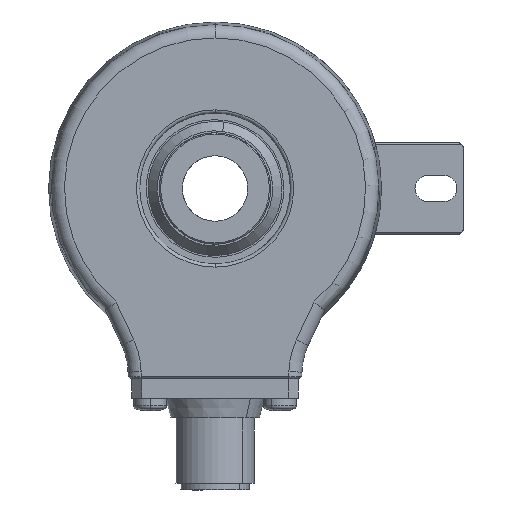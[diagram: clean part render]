
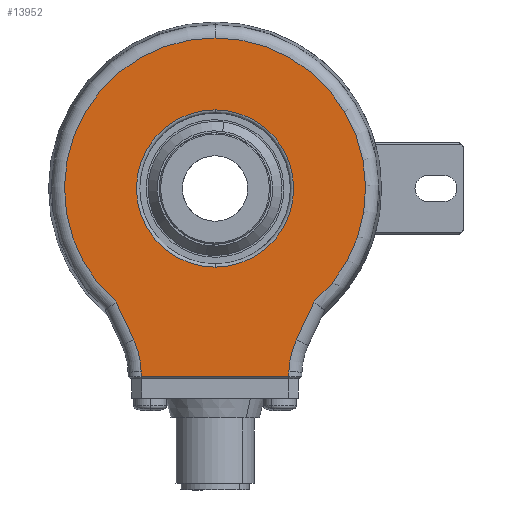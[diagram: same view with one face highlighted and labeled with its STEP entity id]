
A CAD part, left-side view. The second image highlights one B-rep face of the part: STEP entity #13952.
In plain terms, the highlighted planar face has unit normal (-1, 0, 0).
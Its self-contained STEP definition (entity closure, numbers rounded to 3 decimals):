
#16 = DIRECTION ( 'NONE',  ( 1., 0., 0. ) ) ;
#17 = PLANE ( 'NONE',  #24 ) ;
#24 = AXIS2_PLACEMENT_3D ( 'NONE', #25, #16, #26 ) ;
#25 = CARTESIAN_POINT ( 'NONE',  ( -21., 0., 0. ) ) ;
#26 = DIRECTION ( 'NONE',  ( 0., 0., 1. ) ) ;
#879 = VERTEX_POINT ( 'NONE', #3529 ) ;
#980 = VERTEX_POINT ( 'NONE', #4125 ) ;
#987 = EDGE_CURVE ( 'NONE', #879, #1228, #4362, .T. ) ;
#1031 = EDGE_CURVE ( 'NONE', #980, #8403, #4081, .T. ) ;
#1177 = EDGE_CURVE ( 'NONE', #1228, #980, #5493, .T. ) ;
#1225 = VERTEX_POINT ( 'NONE', #5531 ) ;
#1227 = EDGE_CURVE ( 'NONE', #8303, #1225, #5529, .T. ) ;
#1228 = VERTEX_POINT ( 'NONE', #5525 ) ;
#3529 = CARTESIAN_POINT ( 'NONE',  ( -21., -11.268, -27.974 ) ) ;
#4046 = EDGE_CURVE ( 'NONE', #4115, #4112, #6051, .T. ) ;
#4075 = DIRECTION ( 'NONE',  ( 0., 0., 1. ) ) ;
#4077 = DIRECTION ( 'NONE',  ( -1., 0., 0. ) ) ;
#4079 = CARTESIAN_POINT ( 'NONE',  ( -21., 0., 0. ) ) ;
#4080 = AXIS2_PLACEMENT_3D ( 'NONE', #4079, #4077, #4075 ) ;
#4081 = CIRCLE ( 'NONE', #4080, 22.972 ) ;
#4105 = VERTEX_POINT ( 'NONE', #6214 ) ;
#4112 = VERTEX_POINT ( 'NONE', #6110 ) ;
#4115 = VERTEX_POINT ( 'NONE', #6398 ) ;
#4125 = CARTESIAN_POINT ( 'NONE',  ( -21., -15.091, -17.32 ) ) ;
#4355 = DIRECTION ( 'NONE',  ( 0., 0., 1. ) ) ;
#4357 = DIRECTION ( 'NONE',  ( 1., 0., 0. ) ) ;
#4359 = CARTESIAN_POINT ( 'NONE',  ( -21., -23.266, -28.183 ) ) ;
#4360 = AXIS2_PLACEMENT_3D ( 'NONE', #4359, #4357, #4355 ) ;
#4362 = CIRCLE ( 'NONE', #4360, 12. ) ;
#4468 = EDGE_CURVE ( 'NONE', #1225, #4105, #6869, .T. ) ;
#5490 = DIRECTION ( 'NONE',  ( 0., -0.423, 0.906 ) ) ;
#5491 = VECTOR ( 'NONE', #5490, 1000. ) ;
#5492 = CARTESIAN_POINT ( 'NONE',  ( -21., -14.953, -17.615 ) ) ;
#5493 = LINE ( 'NONE', #5492, #5491 ) ;
#5525 = CARTESIAN_POINT ( 'NONE',  ( -21., -12.39, -23.112 ) ) ;
#5526 = DIRECTION ( 'NONE',  ( 0., -0.423, -0.906 ) ) ;
#5527 = VECTOR ( 'NONE', #5526, 1000. ) ;
#5528 = CARTESIAN_POINT ( 'NONE',  ( -21., 12.39, -23.112 ) ) ;
#5529 = LINE ( 'NONE', #5528, #5527 ) ;
#5531 = CARTESIAN_POINT ( 'NONE',  ( -21., 12.39, -23.112 ) ) ;
#6048 = DIRECTION ( 'NONE',  ( 0., -1., 0. ) ) ;
#6049 = VECTOR ( 'NONE', #6048, 1000. ) ;
#6050 = CARTESIAN_POINT ( 'NONE',  ( -21., -11.25, -28.695 ) ) ;
#6051 = LINE ( 'NONE', #6050, #6049 ) ;
#6110 = CARTESIAN_POINT ( 'NONE',  ( -21., -11.255, -28.695 ) ) ;
#6214 = CARTESIAN_POINT ( 'NONE',  ( -21., 11.268, -27.974 ) ) ;
#6398 = CARTESIAN_POINT ( 'NONE',  ( -21., 11.255, -28.695 ) ) ;
#6865 = DIRECTION ( 'NONE',  ( 0., 0., 1. ) ) ;
#6866 = DIRECTION ( 'NONE',  ( 1., 0., 0. ) ) ;
#6867 = CARTESIAN_POINT ( 'NONE',  ( -21., 23.266, -28.183 ) ) ;
#6868 = AXIS2_PLACEMENT_3D ( 'NONE', #6867, #6866, #6865 ) ;
#6869 = CIRCLE ( 'NONE', #6868, 12. ) ;
#8303 = VERTEX_POINT ( 'NONE', #9166 ) ;
#8403 = VERTEX_POINT ( 'NONE', #9492 ) ;
#8533 = EDGE_CURVE ( 'NONE', #8403, #8303, #9848, .T. ) ;
#9166 = CARTESIAN_POINT ( 'NONE',  ( -21., 15.091, -17.32 ) ) ;
#9492 = CARTESIAN_POINT ( 'NONE',  ( -21., 0., 22.972 ) ) ;
#9844 = DIRECTION ( 'NONE',  ( 0., 0., 1. ) ) ;
#9845 = DIRECTION ( 'NONE',  ( -1., 0., 0. ) ) ;
#9846 = CARTESIAN_POINT ( 'NONE',  ( -21., 0., 0. ) ) ;
#9847 = AXIS2_PLACEMENT_3D ( 'NONE', #9846, #9845, #9844 ) ;
#9848 = CIRCLE ( 'NONE', #9847, 22.972 ) ;
#9951 = CARTESIAN_POINT ( 'NONE',  ( -21., 0., -12. ) ) ;
#9973 = DIRECTION ( 'NONE',  ( 0., 0., 1. ) ) ;
#9974 = DIRECTION ( 'NONE',  ( 1., 0., 0. ) ) ;
#9975 = CARTESIAN_POINT ( 'NONE',  ( -21., 0., 0. ) ) ;
#9976 = AXIS2_PLACEMENT_3D ( 'NONE', #9975, #9974, #9973 ) ;
#9977 = CIRCLE ( 'NONE', #9976, 12. ) ;
#10083 = CARTESIAN_POINT ( 'NONE',  ( -21., 0., 12. ) ) ;
#10172 = VERTEX_POINT ( 'NONE', #9951 ) ;
#10754 = EDGE_CURVE ( 'NONE', #10780, #10172, #9977, .T. ) ;
#10780 = VERTEX_POINT ( 'NONE', #10083 ) ;
#11724 = DIRECTION ( 'NONE',  ( 0., -0.017, -1. ) ) ;
#11725 = VECTOR ( 'NONE', #11724, 1000. ) ;
#11726 = CARTESIAN_POINT ( 'NONE',  ( -21., 11.752, -0.205 ) ) ;
#11727 = LINE ( 'NONE', #11726, #11725 ) ;
#12490 = FACE_OUTER_BOUND ( 'NONE', #13472, .T. ) ;
#12491 = FACE_BOUND ( 'NONE', #14151, .T. ) ;
#13007 = DIRECTION ( 'NONE',  ( 0., -0.017, 1. ) ) ;
#13008 = VECTOR ( 'NONE', #13007, 1000. ) ;
#13010 = CARTESIAN_POINT ( 'NONE',  ( -21., -11.752, -0.205 ) ) ;
#13012 = LINE ( 'NONE', #13010, #13008 ) ;
#13098 = DIRECTION ( 'NONE',  ( 0., 0., 1. ) ) ;
#13100 = DIRECTION ( 'NONE',  ( 1., 0., 0. ) ) ;
#13103 = CARTESIAN_POINT ( 'NONE',  ( -21., 0., 0. ) ) ;
#13104 = AXIS2_PLACEMENT_3D ( 'NONE', #13103, #13100, #13098 ) ;
#13106 = CIRCLE ( 'NONE', #13104, 12. ) ;
#13468 = ORIENTED_EDGE ( 'NONE', *, *, #10754, .T. ) ;
#13469 = ORIENTED_EDGE ( 'NONE', *, *, #14205, .T. ) ;
#13472 = EDGE_LOOP ( 'NONE', ( #13475, #13476, #14149, #14148, #14191, #14146, #14134, #14137, #14132 ) ) ;
#13475 = ORIENTED_EDGE ( 'NONE', *, *, #13489, .T. ) ;
#13476 = ORIENTED_EDGE ( 'NONE', *, *, #4046, .T. ) ;
#13489 = EDGE_CURVE ( 'NONE', #4105, #4115, #11727, .T. ) ;
#13952 = ADVANCED_FACE ( 'NONE', ( #12491, #12490 ), #17, .F. ) ;
#14132 = ORIENTED_EDGE ( 'NONE', *, *, #4468, .T. ) ;
#14134 = ORIENTED_EDGE ( 'NONE', *, *, #8533, .T. ) ;
#14137 = ORIENTED_EDGE ( 'NONE', *, *, #1227, .T. ) ;
#14146 = ORIENTED_EDGE ( 'NONE', *, *, #1031, .T. ) ;
#14147 = EDGE_CURVE ( 'NONE', #4112, #879, #13012, .T. ) ;
#14148 = ORIENTED_EDGE ( 'NONE', *, *, #987, .T. ) ;
#14149 = ORIENTED_EDGE ( 'NONE', *, *, #14147, .T. ) ;
#14151 = EDGE_LOOP ( 'NONE', ( #13468, #13469 ) ) ;
#14191 = ORIENTED_EDGE ( 'NONE', *, *, #1177, .T. ) ;
#14205 = EDGE_CURVE ( 'NONE', #10172, #10780, #13106, .T. ) ;
